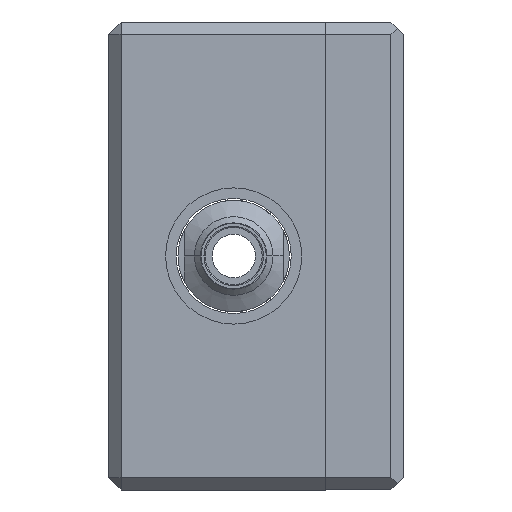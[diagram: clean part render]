
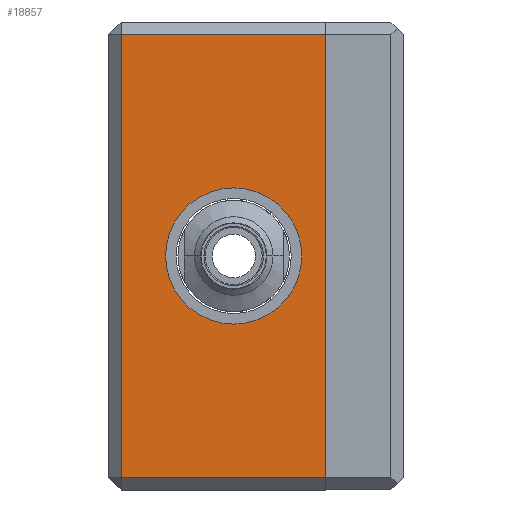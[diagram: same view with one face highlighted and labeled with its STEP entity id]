
A CAD part, left-side view. The second image highlights one B-rep face of the part: STEP entity #18857.
In plain terms, the highlighted planar face has unit normal (-1, 0, 0).
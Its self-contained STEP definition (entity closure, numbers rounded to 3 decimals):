
#210 = DIRECTION ( 'NONE',  ( 0., -1., 0. ) ) ;
#861 = AXIS2_PLACEMENT_3D ( 'NONE', #16128, #7363, #17624 ) ;
#1987 = VERTEX_POINT ( 'NONE', #11337 ) ;
#2227 = EDGE_CURVE ( 'NONE', #5556, #5620, #10040, .T. ) ;
#2521 = DIRECTION ( 'NONE',  ( 0., 0., 1. ) ) ;
#3687 = VECTOR ( 'NONE', #10007, 1000. ) ;
#3940 = ORIENTED_EDGE ( 'NONE', *, *, #5173, .T. ) ;
#4217 = FACE_BOUND ( 'NONE', #12907, .T. ) ;
#4733 = CARTESIAN_POINT ( 'NONE',  ( -24.5, 7.4, -5.5 ) ) ;
#5134 = LINE ( 'NONE', #13378, #5331 ) ;
#5173 = EDGE_CURVE ( 'NONE', #5620, #16590, #5230, .T. ) ;
#5174 = EDGE_LOOP ( 'NONE', ( #5705, #3940, #14089, #5993 ) ) ;
#5230 = LINE ( 'NONE', #11914, #17260 ) ;
#5331 = VECTOR ( 'NONE', #210, 1000. ) ;
#5556 = VERTEX_POINT ( 'NONE', #7275 ) ;
#5620 = VERTEX_POINT ( 'NONE', #13097 ) ;
#5705 = ORIENTED_EDGE ( 'NONE', *, *, #2227, .T. ) ;
#5822 = CARTESIAN_POINT ( 'NONE',  ( -24.5, 7.4, 0. ) ) ;
#5993 = ORIENTED_EDGE ( 'NONE', *, *, #9324, .T. ) ;
#7200 = DIRECTION ( 'NONE',  ( 0., 0., -1. ) ) ;
#7275 = CARTESIAN_POINT ( 'NONE',  ( -24.5, 0., -17.9 ) ) ;
#7363 = DIRECTION ( 'NONE',  ( 1., 0., 0. ) ) ;
#7374 = CARTESIAN_POINT ( 'NONE',  ( -24.5, 16.5, 17.9 ) ) ;
#8070 = DIRECTION ( 'NONE',  ( 1., 0., 0. ) ) ;
#9179 = ORIENTED_EDGE ( 'NONE', *, *, #15040, .T. ) ;
#9324 = EDGE_CURVE ( 'NONE', #14411, #5556, #5134, .T. ) ;
#9887 = VECTOR ( 'NONE', #2521, 1000. ) ;
#10007 = DIRECTION ( 'NONE',  ( 0., 0., -1. ) ) ;
#10040 = LINE ( 'NONE', #11839, #9887 ) ;
#10623 = CIRCLE ( 'NONE', #861, 5.5 ) ;
#11337 = CARTESIAN_POINT ( 'NONE',  ( -24.5, 7.4, 5.5 ) ) ;
#11418 = LINE ( 'NONE', #14404, #3687 ) ;
#11497 = FACE_OUTER_BOUND ( 'NONE', #5174, .T. ) ;
#11523 = EDGE_CURVE ( 'NONE', #16590, #14411, #11418, .T. ) ;
#11839 = CARTESIAN_POINT ( 'NONE',  ( -24.5, 0., -18.9 ) ) ;
#11914 = CARTESIAN_POINT ( 'NONE',  ( -24.5, 17.5, 17.9 ) ) ;
#12419 = CIRCLE ( 'NONE', #17077, 5.5 ) ;
#12907 = EDGE_LOOP ( 'NONE', ( #9179, #16531 ) ) ;
#13097 = CARTESIAN_POINT ( 'NONE',  ( -24.5, 0., 17.9 ) ) ;
#13378 = CARTESIAN_POINT ( 'NONE',  ( -24.5, 17.5, -17.9 ) ) ;
#13742 = DIRECTION ( 'NONE',  ( 0., 1., 0. ) ) ;
#13820 = CARTESIAN_POINT ( 'NONE',  ( -24.5, 16.5, -17.9 ) ) ;
#14089 = ORIENTED_EDGE ( 'NONE', *, *, #11523, .T. ) ;
#14404 = CARTESIAN_POINT ( 'NONE',  ( -24.5, 16.5, -18.9 ) ) ;
#14411 = VERTEX_POINT ( 'NONE', #13820 ) ;
#15040 = EDGE_CURVE ( 'NONE', #18189, #1987, #12419, .T. ) ;
#15397 = PLANE ( 'NONE',  #18779 ) ;
#15962 = DIRECTION ( 'NONE',  ( 1., 0., 0. ) ) ;
#16128 = CARTESIAN_POINT ( 'NONE',  ( -24.5, 7.4, 0. ) ) ;
#16531 = ORIENTED_EDGE ( 'NONE', *, *, #17686, .T. ) ;
#16590 = VERTEX_POINT ( 'NONE', #7374 ) ;
#16839 = CARTESIAN_POINT ( 'NONE',  ( -24.5, 17.5, -18.9 ) ) ;
#17077 = AXIS2_PLACEMENT_3D ( 'NONE', #5822, #15962, #7200 ) ;
#17260 = VECTOR ( 'NONE', #13742, 1000. ) ;
#17624 = DIRECTION ( 'NONE',  ( 0., 0., -1. ) ) ;
#17686 = EDGE_CURVE ( 'NONE', #1987, #18189, #10623, .T. ) ;
#18189 = VERTEX_POINT ( 'NONE', #4733 ) ;
#18323 = DIRECTION ( 'NONE',  ( 0., 0., -1. ) ) ;
#18779 = AXIS2_PLACEMENT_3D ( 'NONE', #16839, #8070, #18323 ) ;
#18857 = ADVANCED_FACE ( 'NONE', ( #4217, #11497 ), #15397, .F. ) ;
